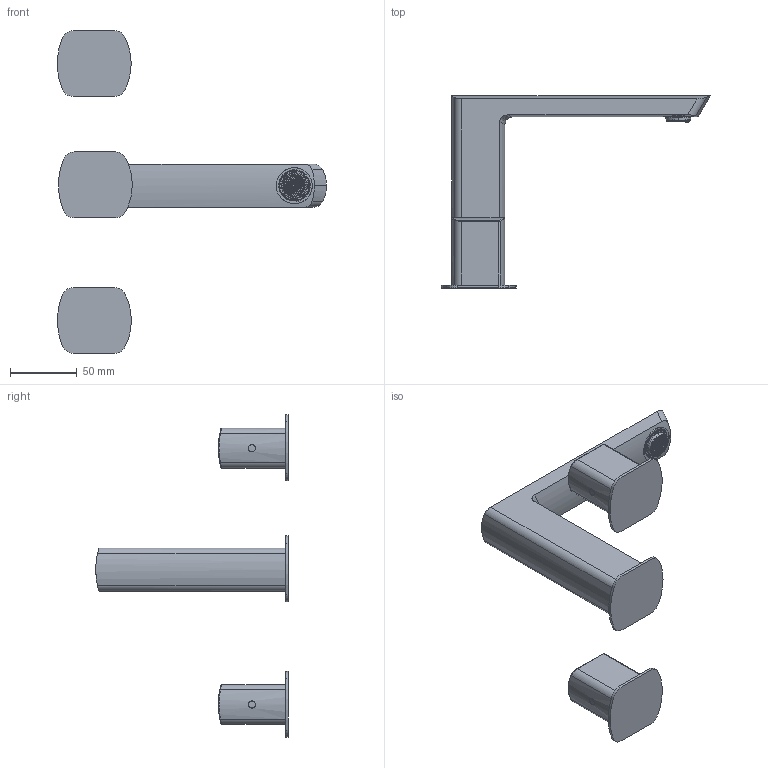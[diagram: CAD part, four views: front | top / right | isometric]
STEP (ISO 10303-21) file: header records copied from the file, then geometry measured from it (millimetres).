
FILE_DESCRIPTION (( 'STEP AP214' ), '1' );
FILE_NAME ('01303010 x architetti.STEP', '2024-10-29T16:26:39', ( '' ), ( '' ), 'SwSTEP 2.0', 'SolidWorks 2020', '' );
FILE_SCHEMA (( 'AUTOMOTIVE_DESIGN' ));
Length unit declared in the file: millimetre
Products named in the file (1): 01303010 x architetti
Bounding box: 202.09 x 144.5 x 242.35 mm (x, y, z)
Volume: 371181.9 mm3; surface area: 66815.6 mm2
Topology: 4 solids, 12 shells, 4447 faces, 11509 edges, 7465 vertices
Faces by surface type: plane 3286, cylinder 682, cone 416, bspline 63
Entity records: 192518 total; most frequent: CARTESIAN_POINT 48300, ORIENTED_EDGE 23018, DIRECTION 14488, EDGE_CURVE 11509, VERTEX_POINT 7465, B_SPLINE_CURVE_WITH_KNOTS 5221, VECTOR 4996, LINE 4996
